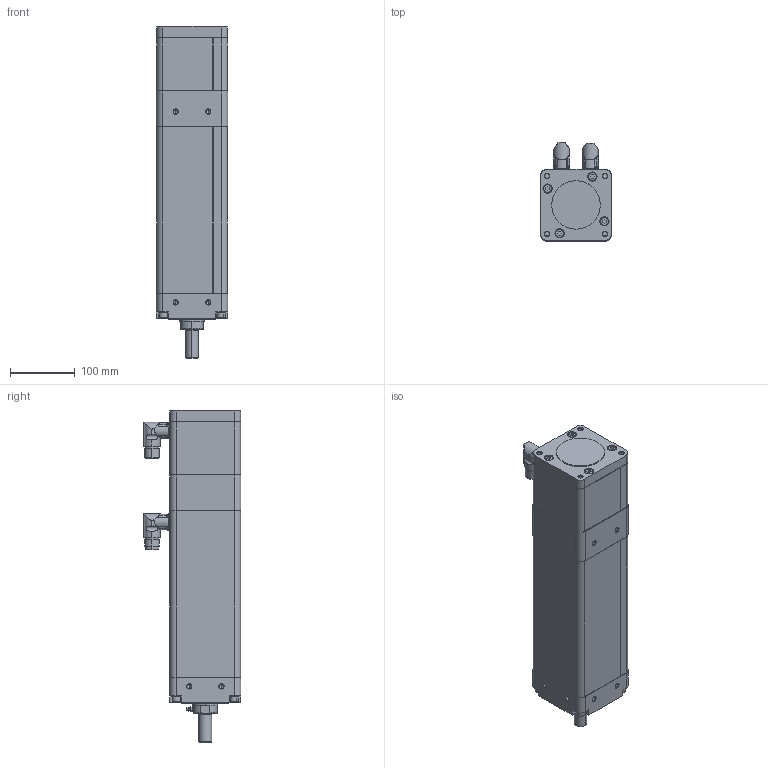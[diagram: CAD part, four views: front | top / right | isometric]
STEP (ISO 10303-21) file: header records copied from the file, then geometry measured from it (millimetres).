
FILE_DESCRIPTION((''),'2;1');
FILE_NAME('MPAI-A4150CM34A_ASM','2009-12-11T',('ALS'),('Rockwell Automation'),'PRO/ENGINEER BY PARAMETRIC TECHNOLOGY CORPORATION, 2004490','PRO/ENGINEER BY PARAMETRIC TECHNOLOGY CORPORATION, 2004490','');
FILE_SCHEMA(('CONFIG_CONTROL_DESIGN'));
Length unit declared in the file: inch
Products named in the file (5): TEMPJOIN0_27449012-71254-2_; BASE-71254-2_ANY; 71254-2_ANY_ASM; _MPAI-A4150CM34A; MPAI-A4150CM34A_ASM
Assembly tree (4 placements, depth 3):
  MPAI-A4150CM34A_ASM
    71254-2_ANY_ASM
      TEMPJOIN0_27449012-71254-2_
      BASE-71254-2_ANY
    _MPAI-A4150CM34A
Bounding box: 110.49 x 151.48 x 514.26 mm (x, y, z)
Volume: 396700.5 mm3; surface area: 337549.8 mm2
Topology: 5 solids, 18 shells, 1212 faces, 3105 edges, 2066 vertices
Faces by surface type: plane 560, cylinder 482, cone 152, torus 18
Entity records: 37580 total; most frequent: CARTESIAN_POINT 6927, DIRECTION 6716, ORIENTED_EDGE 6114, EDGE_CURVE 3061, AXIS2_PLACEMENT_3D 2491, VERTEX_POINT 2066, VECTOR 1734, LINE 1734
